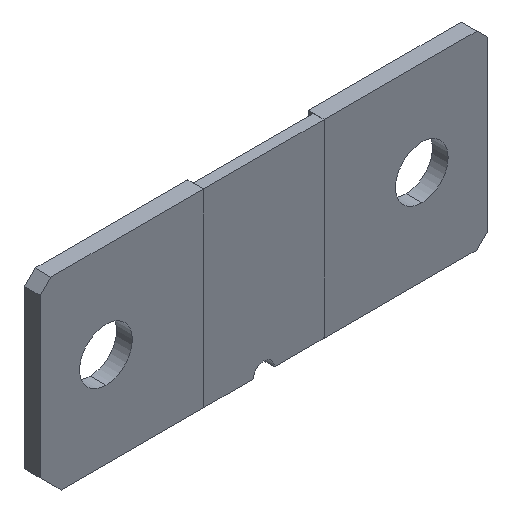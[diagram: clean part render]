
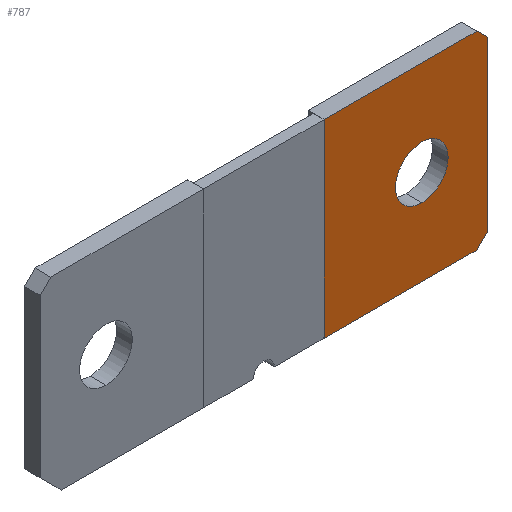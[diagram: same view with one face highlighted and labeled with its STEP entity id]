
A CAD part, isometric view. The second image highlights one B-rep face of the part: STEP entity #787.
In plain terms, the highlighted planar face has unit normal (0, -1, 0).
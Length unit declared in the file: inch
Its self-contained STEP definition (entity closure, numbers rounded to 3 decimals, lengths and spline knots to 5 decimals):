
#30 = DIRECTION ( 'NONE',  ( 0., 1., 0. ) ) ;
#47 = CARTESIAN_POINT ( 'NONE',  ( -0.81274, 0., -0.46711 ) ) ;
#84 = CARTESIAN_POINT ( 'NONE',  ( -0.81274, 0., 0.94989 ) ) ;
#102 = EDGE_CURVE ( 'NONE', #625, #124, #858, .T. ) ;
#117 = AXIS2_PLACEMENT_3D ( 'NONE', #450, #30, #936 ) ;
#122 = CARTESIAN_POINT ( 'NONE',  ( -0.81274, 0., 0.94989 ) ) ;
#124 = VERTEX_POINT ( 'NONE', #269 ) ;
#126 = ORIENTED_EDGE ( 'NONE', *, *, #384, .T. ) ;
#143 = DIRECTION ( 'NONE',  ( 1., 0., 0. ) ) ;
#148 = CARTESIAN_POINT ( 'NONE',  ( -0.08174, 0., 0.43839 ) ) ;
#165 = EDGE_CURVE ( 'NONE', #186, #341, #789, .T. ) ;
#175 = CARTESIAN_POINT ( 'NONE',  ( 0.41026, 0., -0.38811 ) ) ;
#180 = CARTESIAN_POINT ( 'NONE',  ( -0.08174, 0., 0.04439 ) ) ;
#186 = VERTEX_POINT ( 'NONE', #208 ) ;
#208 = CARTESIAN_POINT ( 'NONE',  ( 0.33126, 0., -0.46711 ) ) ;
#209 = ORIENTED_EDGE ( 'NONE', *, *, #165, .F. ) ;
#214 = EDGE_LOOP ( 'NONE', ( #126, #944 ) ) ;
#224 = VERTEX_POINT ( 'NONE', #180 ) ;
#243 = PLANE ( 'NONE',  #871 ) ;
#244 = DIRECTION ( 'NONE',  ( -0.707, 0., -0.707 ) ) ;
#250 = EDGE_CURVE ( 'NONE', #124, #1005, #603, .T. ) ;
#260 = ORIENTED_EDGE ( 'NONE', *, *, #942, .F. ) ;
#269 = CARTESIAN_POINT ( 'NONE',  ( 0.41026, 0., 0.87089 ) ) ;
#270 = VECTOR ( 'NONE', #143, 39.37008 ) ;
#300 = VECTOR ( 'NONE', #803, 39.37008 ) ;
#318 = CARTESIAN_POINT ( 'NONE',  ( 0., 0., 0. ) ) ;
#341 = VERTEX_POINT ( 'NONE', #360 ) ;
#360 = CARTESIAN_POINT ( 'NONE',  ( -0.81274, 0., -0.46711 ) ) ;
#367 = VECTOR ( 'NONE', #866, 39.37008 ) ;
#369 = ORIENTED_EDGE ( 'NONE', *, *, #102, .F. ) ;
#378 = VECTOR ( 'NONE', #671, 39.37008 ) ;
#384 = EDGE_CURVE ( 'NONE', #581, #224, #577, .T. ) ;
#388 = EDGE_CURVE ( 'NONE', #224, #581, #493, .T. ) ;
#390 = CARTESIAN_POINT ( 'NONE',  ( 0.41026, 0., -0.38811 ) ) ;
#426 = DIRECTION ( 'NONE',  ( 0., 1., 0. ) ) ;
#442 = LINE ( 'NONE', #984, #956 ) ;
#447 = CARTESIAN_POINT ( 'NONE',  ( 0.41026, 0., 0.87089 ) ) ;
#450 = CARTESIAN_POINT ( 'NONE',  ( -0.08174, 0., 0.24139 ) ) ;
#489 = EDGE_LOOP ( 'NONE', ( #513, #209, #771, #918, #369, #260 ) ) ;
#493 = CIRCLE ( 'NONE', #717, 0.197 ) ;
#497 = EDGE_CURVE ( 'NONE', #1005, #186, #442, .T. ) ;
#501 = CARTESIAN_POINT ( 'NONE',  ( -0.08174, 0., 0.24139 ) ) ;
#513 = ORIENTED_EDGE ( 'NONE', *, *, #561, .F. ) ;
#561 = EDGE_CURVE ( 'NONE', #341, #740, #805, .T. ) ;
#577 = CIRCLE ( 'NONE', #117, 0.197 ) ;
#581 = VERTEX_POINT ( 'NONE', #148 ) ;
#603 = LINE ( 'NONE', #175, #811 ) ;
#625 = VERTEX_POINT ( 'NONE', #891 ) ;
#644 = DIRECTION ( 'NONE',  ( 0., 0., 1. ) ) ;
#657 = DIRECTION ( 'NONE',  ( 0., 0., 1. ) ) ;
#671 = DIRECTION ( 'NONE',  ( 0.707, 0., -0.707 ) ) ;
#717 = AXIS2_PLACEMENT_3D ( 'NONE', #501, #426, #657 ) ;
#740 = VERTEX_POINT ( 'NONE', #84 ) ;
#758 = DIRECTION ( 'NONE',  ( 0., 0., -1. ) ) ;
#771 = ORIENTED_EDGE ( 'NONE', *, *, #497, .F. ) ;
#787 = ADVANCED_FACE ( 'NONE', ( #890, #1060 ), #243, .F. ) ;
#789 = LINE ( 'NONE', #47, #367 ) ;
#803 = DIRECTION ( 'NONE',  ( 0., 0., 1. ) ) ;
#805 = LINE ( 'NONE', #878, #300 ) ;
#811 = VECTOR ( 'NONE', #758, 39.37008 ) ;
#858 = LINE ( 'NONE', #447, #378 ) ;
#866 = DIRECTION ( 'NONE',  ( -1., 0., 0. ) ) ;
#871 = AXIS2_PLACEMENT_3D ( 'NONE', #318, #914, #644 ) ;
#878 = CARTESIAN_POINT ( 'NONE',  ( -0.81274, 0., -0.46711 ) ) ;
#890 = FACE_BOUND ( 'NONE', #214, .T. ) ;
#891 = CARTESIAN_POINT ( 'NONE',  ( 0.33126, 0., 0.94989 ) ) ;
#914 = DIRECTION ( 'NONE',  ( 0., 1., 0. ) ) ;
#918 = ORIENTED_EDGE ( 'NONE', *, *, #250, .F. ) ;
#936 = DIRECTION ( 'NONE',  ( 0., 0., 1. ) ) ;
#942 = EDGE_CURVE ( 'NONE', #740, #625, #1026, .T. ) ;
#944 = ORIENTED_EDGE ( 'NONE', *, *, #388, .T. ) ;
#956 = VECTOR ( 'NONE', #244, 39.37008 ) ;
#984 = CARTESIAN_POINT ( 'NONE',  ( 0.33126, 0., -0.46711 ) ) ;
#1005 = VERTEX_POINT ( 'NONE', #390 ) ;
#1026 = LINE ( 'NONE', #122, #270 ) ;
#1060 = FACE_OUTER_BOUND ( 'NONE', #489, .T. ) ;
